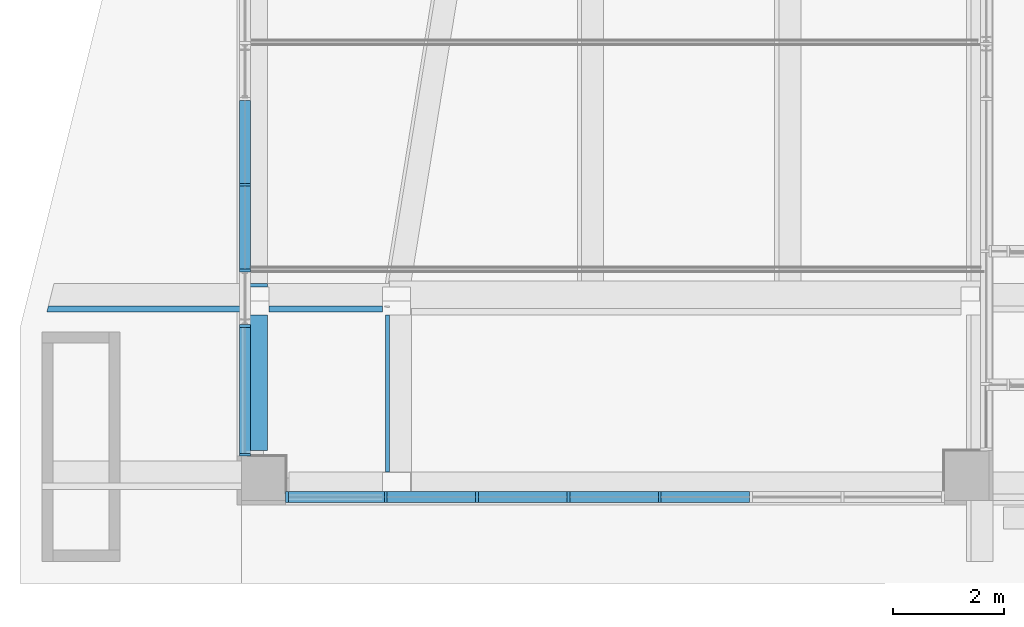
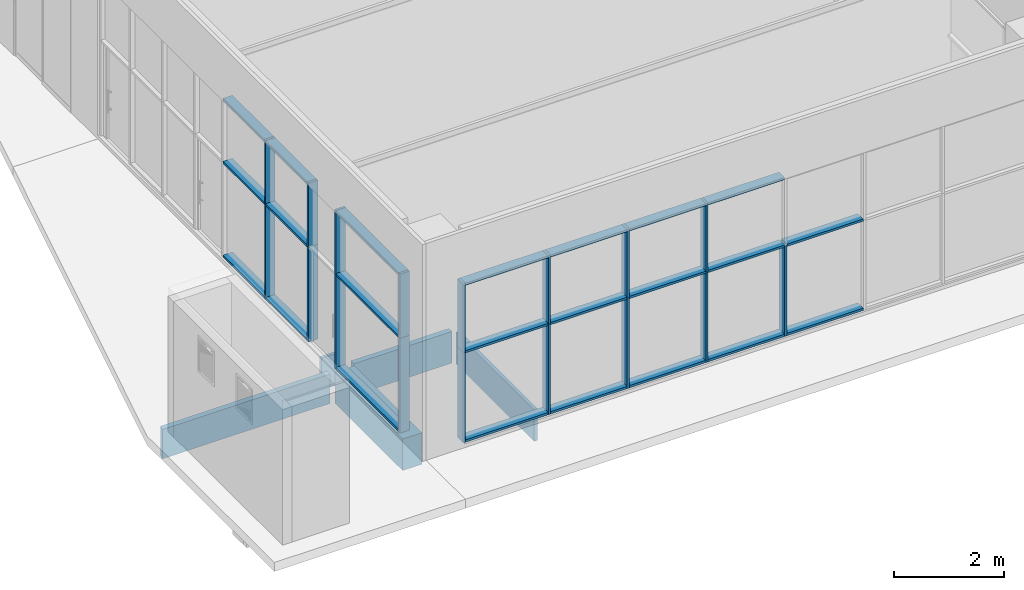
# One storey, part 2 of 100: 40 members, 4 beams, 2 elements without a shape of their own.
"""IFC2X3 building model written with IfcOpenShell, lengths in millimetres."""

from ifc_helpers import new_model, entity, si_unit, converted_unit, derived_unit, direction, frame, frame_2d, origin, origin_2d_with_axis, place, context, subcontext, project, spatial, rectangle, extrude, clip, halfspace, source, transform, mapped, material, type_object, type_shapes, element, aggregate, save


model = new_model("IFC2X3")

# Units and contexts
model_context = context("Model", 3, precision=0.01, world=origin(), true_north=direction((6.123031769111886e-17, 1.0)))
body_context = subcontext(model_context, "Body", "Model", "MODEL_VIEW")
ifc_project = project(units=[si_unit("LENGTHUNIT", "METRE", prefix="MILLI"), si_unit("AREAUNIT", "SQUARE_METRE"), si_unit("VOLUMEUNIT", "CUBIC_METRE"), converted_unit("PLANEANGLEUNIT", "DEGREE", entity("IfcRatioMeasure", 0.017453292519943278), si_unit("PLANEANGLEUNIT", "RADIAN"), dimensions=[0, 0, 0, 0, 0, 0, 0]), si_unit("MASSUNIT", "GRAM", prefix="KILO"), derived_unit("MASSDENSITYUNIT", [(si_unit("MASSUNIT", "GRAM", prefix="KILO"), 1), (si_unit("LENGTHUNIT", "METRE"), -3)]), derived_unit("MOMENTOFINERTIAUNIT", [(si_unit("LENGTHUNIT", "METRE"), 4)]), si_unit("TIMEUNIT", "SECOND"), si_unit("FREQUENCYUNIT", "HERTZ"), si_unit("THERMODYNAMICTEMPERATUREUNIT", "DEGREE_CELSIUS"), derived_unit("THERMALTRANSMITTANCEUNIT", [(si_unit("MASSUNIT", "GRAM", prefix="KILO"), 1), (si_unit("THERMODYNAMICTEMPERATUREUNIT", "KELVIN"), -1), (si_unit("TIMEUNIT", "SECOND"), -3)]), derived_unit("VOLUMETRICFLOWRATEUNIT", [(si_unit("LENGTHUNIT", "METRE"), 3), (si_unit("TIMEUNIT", "SECOND"), -1)]), derived_unit("MASSFLOWRATEUNIT", [(si_unit("MASSUNIT", "GRAM", prefix="KILO"), 1), (si_unit("TIMEUNIT", "SECOND"), -1)]), derived_unit("ROTATIONALFREQUENCYUNIT", [(si_unit("TIMEUNIT", "SECOND"), -1)]), si_unit("ELECTRICCURRENTUNIT", "AMPERE"), si_unit("ELECTRICVOLTAGEUNIT", "VOLT"), si_unit("POWERUNIT", "WATT"), si_unit("FORCEUNIT", "NEWTON", prefix="KILO"), si_unit("ILLUMINANCEUNIT", "LUX"), si_unit("LUMINOUSFLUXUNIT", "LUMEN"), si_unit("LUMINOUSINTENSITYUNIT", "CANDELA"), derived_unit("USERDEFINED", [(si_unit("MASSUNIT", "GRAM", prefix="KILO"), -1), (si_unit("LENGTHUNIT", "METRE"), -2), (si_unit("TIMEUNIT", "SECOND"), 3), (si_unit("LUMINOUSFLUXUNIT", "LUMEN"), 1)]), derived_unit("SOUNDPOWERUNIT", [(si_unit("MASSUNIT", "GRAM", prefix="KILO"), 1), (si_unit("LENGTHUNIT", "METRE"), 2), (si_unit("TIMEUNIT", "SECOND"), -3)]), derived_unit("SOUNDPRESSUREUNIT", [(si_unit("MASSUNIT", "GRAM", prefix="KILO"), 1), (si_unit("LENGTHUNIT", "METRE"), -1), (si_unit("TIMEUNIT", "SECOND"), -2)]), derived_unit("LINEARVELOCITYUNIT", [(si_unit("LENGTHUNIT", "METRE"), 1), (si_unit("TIMEUNIT", "SECOND"), -1)]), si_unit("PRESSUREUNIT", "PASCAL"), derived_unit("USERDEFINED", [(si_unit("LENGTHUNIT", "METRE"), -2), (si_unit("MASSUNIT", "GRAM", prefix="KILO"), 1), (si_unit("TIMEUNIT", "SECOND"), -2)]), derived_unit("LINEARFORCEUNIT", [(si_unit("MASSUNIT", "GRAM", prefix="KILO"), 1), (si_unit("LENGTHUNIT", "METRE"), 1), (si_unit("TIMEUNIT", "SECOND"), -2), (si_unit("LENGTHUNIT", "METRE"), -1)]), derived_unit("PLANARFORCEUNIT", [(si_unit("MASSUNIT", "GRAM", prefix="KILO"), 1), (si_unit("LENGTHUNIT", "METRE"), 1), (si_unit("TIMEUNIT", "SECOND"), -2), (si_unit("LENGTHUNIT", "METRE"), -2)])], contexts=[model_context])

# Site, building, storey
site_placement = place(None, frame((-14167.972527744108, -657.2125860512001, 0.0)))
site = spatial("IfcSite", under=ifc_project, at=site_placement, Name="Default", CompositionType="ELEMENT")
building_placement = place(site_placement, origin())
building = spatial("IfcBuilding", under=site, at=building_placement, Name="Sample Building", CompositionType="ELEMENT")
storey_placement = place(building_placement, origin())
storey = spatial("IfcBuildingStorey", under=building, at=storey_placement, Name="지상 1층", CompositionType="ELEMENT", Elevation=0.0)

# Curtain wall, members
curtain_wall_type = type_object("IfcCurtainWallType", Name="커튼월:CW112-스테인리스 스틸 커튼월", PredefinedType="NOTDEFINED")
curtain_wall_1_placement = place(storey_placement, origin())
curtain_wall_1 = element("IfcCurtainWall", 1, at=curtain_wall_1_placement, inside=storey, type_object=curtain_wall_type, Name="커튼월:CW112-스테인리스 스틸 커튼월", ObjectType="커튼월:CW112-스테인리스 스틸 커튼월")
ifc_material_1 = material(Name="<Unnamed>")
member_type_1 = type_object("IfcMemberType", Name="직사각형 멀리언:CW200-직사각형 멀리언 50x200mm", PredefinedType="MULLION", material=ifc_material_1)
shared_shape_1 = source(origin(), body_context, "Body", "SweptSolid", [
    extrude(rectangle(XDim=200.0, YDim=50.0, at=origin_2d_with_axis()), frame((0.0, 0.0, -2100.0), z_axis=(0.0, 0.0, 1.0), x_axis=(0.0, -1.0, 0.0)), (0.0, 0.0, 1.0), 2100.0),
])
type_shapes(member_type_1, [shared_shape_1])
member_1_placement = place(curtain_wall_1_placement, frame((14129.839654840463, 6257.177624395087, 80.0), z_axis=(0.0, 0.0, -1.0), x_axis=(0.0, -1.0, 0.0)))
member_1 = element("IfcMember", 2, at=member_1_placement, type_object=member_type_1, material=ifc_material_1, Name="직사각형 멀리언:CW200-직사각형 멀리언 50x200mm", ObjectType="직사각형 멀리언:CW200-직사각형 멀리언 50x200mm", context=body_context, shape_type="MappedRepresentation", body=[
    mapped(shared_shape_1, transform((0.0, 0.0, 0.0), scale=1.0)),
])
member_2_placement = place(curtain_wall_1_placement, frame((14129.839654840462, 4707.177624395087, 80.0), z_axis=(0.0, 0.0, -1.0), x_axis=(0.0, -1.0, 0.0)))
member_2 = element("IfcMember", 3, at=member_2_placement, type_object=member_type_1, material=ifc_material_1, Name="직사각형 멀리언:CW200-직사각형 멀리언 50x200mm", ObjectType="직사각형 멀리언:CW200-직사각형 멀리언 50x200mm", context=body_context, shape_type="MappedRepresentation", body=[
    mapped(shared_shape_1, transform((0.0, 0.0, 0.0), scale=1.0)),
])
member_3_placement = place(curtain_wall_1_placement, frame((14129.839654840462, 3707.177624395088, 80.0), z_axis=(0.0, 0.0, -1.0), x_axis=(0.0, -1.0, 0.0)))
member_3 = element("IfcMember", 4, at=member_3_placement, type_object=member_type_1, material=ifc_material_1, Name="직사각형 멀리언:CW200-직사각형 멀리언 50x200mm", ObjectType="직사각형 멀리언:CW200-직사각형 멀리언 50x200mm", context=body_context, shape_type="MappedRepresentation", body=[
    mapped(shared_shape_1, transform((0.0, 0.0, 0.0), scale=1.0)),
])
member_type_2 = type_object("IfcMemberType", Name="직사각형 멀리언:CW200-직사각형 멀리언 50x200mm", PredefinedType="MULLION", material=ifc_material_1)
shared_shape_2 = source(origin(), body_context, "Body", "SweptSolid", [
    extrude(rectangle(XDim=200.0, YDim=50.0, at=origin_2d_with_axis()), frame((-25.0, 0.0, -1420.0), z_axis=(0.0, 0.0, 1.0), x_axis=(0.0, -1.0, 0.0)), (0.0, 0.0, 1.0), 1420.0000000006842),
])
type_shapes(member_type_2, [shared_shape_2])
member_4_placement = place(curtain_wall_1_placement, frame((14129.839654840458, 1357.2118860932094, 2180.0), z_axis=(0.0, 0.0, -1.0), x_axis=(0.0, -1.0, 0.0)))
member_4 = element("IfcMember", 5, at=member_4_placement, type_object=member_type_2, material=ifc_material_1, Name="직사각형 멀리언:CW200-직사각형 멀리언 50x200mm", ObjectType="직사각형 멀리언:CW200-직사각형 멀리언 50x200mm", context=body_context, shape_type="MappedRepresentation", body=[
    mapped(shared_shape_2, transform((0.0, 0.0, 0.0), scale=1.0)),
])
member_type_3 = type_object("IfcMemberType", Name="직사각형 멀리언:CW200-직사각형 멀리언 50x200mm", PredefinedType="MULLION", material=ifc_material_1)
shared_shape_3 = source(origin(), body_context, "Body", "SweptSolid", [
    extrude(rectangle(XDim=200.0, YDim=50.0, at=origin_2d_with_axis()), frame((0.0, 0.0, -1420.0), z_axis=(0.0, 0.0, 1.0), x_axis=(0.0, -1.0, 0.0)), (0.0, 0.0, 1.0), 1420.0000000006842),
])
type_shapes(member_type_3, [shared_shape_3])
member_5_placement = place(curtain_wall_1_placement, frame((14129.839654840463, 6257.177624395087, 2180.0), z_axis=(0.0, 0.0, -1.0), x_axis=(0.0, -1.0, 0.0)))
member_5 = element("IfcMember", 6, at=member_5_placement, type_object=member_type_3, material=ifc_material_1, Name="직사각형 멀리언:CW200-직사각형 멀리언 50x200mm", ObjectType="직사각형 멀리언:CW200-직사각형 멀리언 50x200mm", context=body_context, shape_type="MappedRepresentation", body=[
    mapped(shared_shape_3, transform((0.0, 0.0, 0.0), scale=1.0)),
])
member_6_placement = place(curtain_wall_1_placement, frame((14129.839654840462, 4707.177624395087, 2180.0), z_axis=(0.0, 0.0, -1.0), x_axis=(0.0, -1.0, 0.0)))
member_6 = element("IfcMember", 7, at=member_6_placement, type_object=member_type_3, material=ifc_material_1, Name="직사각형 멀리언:CW200-직사각형 멀리언 50x200mm", ObjectType="직사각형 멀리언:CW200-직사각형 멀리언 50x200mm", context=body_context, shape_type="MappedRepresentation", body=[
    mapped(shared_shape_3, transform((0.0, 0.0, 0.0), scale=1.0)),
])
member_7_placement = place(curtain_wall_1_placement, frame((14129.839654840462, 3707.177624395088, 2180.0), z_axis=(0.0, 0.0, -1.0), x_axis=(0.0, -1.0, 0.0)))
member_7 = element("IfcMember", 8, at=member_7_placement, type_object=member_type_3, material=ifc_material_1, Name="직사각형 멀리언:CW200-직사각형 멀리언 50x200mm", ObjectType="직사각형 멀리언:CW200-직사각형 멀리언 50x200mm", context=body_context, shape_type="MappedRepresentation", body=[
    mapped(shared_shape_3, transform((0.0, 0.0, 0.0), scale=1.0)),
])
member_type_4 = type_object("IfcMemberType", Name="직사각형 멀리언:CW200-직사각형 멀리언 50x200mm", PredefinedType="MULLION", material=ifc_material_1)
shared_shape_4 = source(origin(), body_context, "Body", "SweptSolid", [
    extrude(rectangle(XDim=200.0, YDim=50.0, at=origin_2d_with_axis()), frame((-25.0, 0.0, -2274.9999772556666), z_axis=(0.0, 0.0, 1.0), x_axis=(0.0, -1.0, 0.0)), (0.0, 0.0, 1.0), 2274.999977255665),
])
type_shapes(member_type_4, [shared_shape_4])
member_8_placement = place(curtain_wall_1_placement, frame((14129.839654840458, 1407.2118860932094, 3600.0), z_axis=(0.0, -1.0, 0.0), x_axis=(0.0, 0.0, 1.0)))
member_8 = element("IfcMember", 9, at=member_8_placement, type_object=member_type_4, material=ifc_material_1, Name="직사각형 멀리언:CW200-직사각형 멀리언 50x200mm", ObjectType="직사각형 멀리언:CW200-직사각형 멀리언 50x200mm", context=body_context, shape_type="MappedRepresentation", body=[
    mapped(shared_shape_4, transform((0.0, 0.0, 0.0), scale=1.0)),
])
member_type_5 = type_object("IfcMemberType", Name="직사각형 멀리언:CW200-직사각형 멀리언 50x200mm", PredefinedType="MULLION", material=ifc_material_1)
shared_shape_5 = source(origin(), body_context, "Body", "SweptSolid", [
    extrude(rectangle(XDim=200.0, YDim=50.0, at=origin_2d_with_axis()), frame((-25.0, 0.0, -2100.0), z_axis=(0.0, 0.0, 1.0), x_axis=(0.0, -1.0, 0.0)), (0.0, 0.0, 1.0), 2100.0),
])
type_shapes(member_type_5, [shared_shape_5])
member_9_placement = place(curtain_wall_1_placement, frame((14129.839654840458, 1357.2118860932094, 80.0), z_axis=(0.0, 0.0, -1.0), x_axis=(0.0, -1.0, 0.0)))
member_9 = element("IfcMember", 10, at=member_9_placement, type_object=member_type_5, material=ifc_material_1, Name="직사각형 멀리언:CW200-직사각형 멀리언 50x200mm", ObjectType="직사각형 멀리언:CW200-직사각형 멀리언 50x200mm", context=body_context, shape_type="MappedRepresentation", body=[
    mapped(shared_shape_5, transform((0.0, 0.0, 0.0), scale=1.0)),
])
member_type_6 = type_object("IfcMemberType", Name="직사각형 멀리언:CW200-직사각형 멀리언 50x200mm", PredefinedType="MULLION", material=ifc_material_1)
shared_shape_6 = source(origin(), body_context, "Body", "SweptSolid", [
    extrude(rectangle(XDim=200.0, YDim=50.0, at=origin_2d_with_axis()), frame((-25.0, 0.0, -1500.0), z_axis=(0.0, 0.0, 1.0), x_axis=(0.0, -1.0, 0.0)), (0.0, 0.0, 1.0), 1500.0000000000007),
])
type_shapes(member_type_6, [shared_shape_6])
member_10_placement = place(curtain_wall_1_placement, frame((14129.839654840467, 7782.177624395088, 80.0), z_axis=(0.0, 1.0, 0.0), x_axis=(0.0, 0.0, -1.0)))
member_10 = element("IfcMember", 11, at=member_10_placement, type_object=member_type_6, material=ifc_material_1, Name="직사각형 멀리언:CW200-직사각형 멀리언 50x200mm", ObjectType="직사각형 멀리언:CW200-직사각형 멀리언 50x200mm", context=body_context, shape_type="MappedRepresentation", body=[
    mapped(shared_shape_6, transform((0.0, 0.0, 0.0), scale=1.0)),
])
member_11_placement = place(curtain_wall_1_placement, frame((14129.839654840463, 6232.177624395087, 80.0), z_axis=(0.0, 1.0, 0.0), x_axis=(0.0, 0.0, -1.0)))
member_11 = element("IfcMember", 12, at=member_11_placement, type_object=member_type_6, material=ifc_material_1, Name="직사각형 멀리언:CW200-직사각형 멀리언 50x200mm", ObjectType="직사각형 멀리언:CW200-직사각형 멀리언 50x200mm", context=body_context, shape_type="MappedRepresentation", body=[
    mapped(shared_shape_6, transform((0.0, 0.0, 0.0), scale=1.0)),
])
member_type_7 = type_object("IfcMemberType", Name="직사각형 멀리언:CW200-직사각형 멀리언 50x200mm", PredefinedType="MULLION", material=ifc_material_1)
shared_shape_7 = source(origin(), body_context, "Body", "SweptSolid", [
    extrude(rectangle(XDim=200.0, YDim=50.0, at=origin_2d_with_axis()), frame((-25.0, 0.0, -1500.0), z_axis=(0.0, 0.0, 1.0), x_axis=(0.0, -1.0, 0.0)), (0.0, 0.0, 1.0), 1500.0000000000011),
])
type_shapes(member_type_7, [shared_shape_7])
member_12_placement = place(curtain_wall_1_placement, frame((14129.839654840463, 6282.177624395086, 3600.0), z_axis=(0.0, -1.0, 0.0), x_axis=(0.0, 0.0, 1.0)))
member_12 = element("IfcMember", 13, at=member_12_placement, type_object=member_type_7, material=ifc_material_1, Name="직사각형 멀리언:CW200-직사각형 멀리언 50x200mm", ObjectType="직사각형 멀리언:CW200-직사각형 멀리언 50x200mm", context=body_context, shape_type="MappedRepresentation", body=[
    mapped(shared_shape_7, transform((0.0, 0.0, 0.0), scale=1.0)),
])
member_13_placement = place(curtain_wall_1_placement, frame((14129.839654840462, 4732.177624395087, 3600.0), z_axis=(0.0, -1.0, 0.0), x_axis=(0.0, 0.0, 1.0)))
member_13 = element("IfcMember", 14, at=member_13_placement, type_object=member_type_7, material=ifc_material_1, Name="직사각형 멀리언:CW200-직사각형 멀리언 50x200mm", ObjectType="직사각형 멀리언:CW200-직사각형 멀리언 50x200mm", context=body_context, shape_type="MappedRepresentation", body=[
    mapped(shared_shape_7, transform((0.0, 0.0, 0.0), scale=1.0)),
])
member_type_8 = type_object("IfcMemberType", Name="직사각형 멀리언:CW200-직사각형 멀리언 50x200mm", PredefinedType="MULLION", material=ifc_material_1)
shared_shape_8 = source(origin(), body_context, "Body", "SweptSolid", [
    extrude(rectangle(XDim=200.0, YDim=50.0, at=origin_2d_with_axis()), frame((0.0, 0.0, -1500.0), z_axis=(0.0, 0.0, 1.0), x_axis=(0.0, -1.0, 0.0)), (0.0, 0.0, 1.0), 1500.0000000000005),
])
type_shapes(member_type_8, [shared_shape_8])
member_14_placement = place(curtain_wall_1_placement, frame((14129.839654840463, 6282.177624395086, 2180.0), z_axis=(0.0, -1.0, 0.0), x_axis=(0.0, 0.0, 1.0)))
member_14 = element("IfcMember", 15, at=member_14_placement, type_object=member_type_8, material=ifc_material_1, Name="직사각형 멀리언:CW200-직사각형 멀리언 50x200mm", ObjectType="직사각형 멀리언:CW200-직사각형 멀리언 50x200mm", context=body_context, shape_type="MappedRepresentation", body=[
    mapped(shared_shape_8, transform((0.0, 0.0, 0.0), scale=1.0)),
])
member_15_placement = place(curtain_wall_1_placement, frame((14129.839654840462, 4732.177624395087, 2180.0), z_axis=(0.0, -1.0, 0.0), x_axis=(0.0, 0.0, 1.0)))
member_15 = element("IfcMember", 16, at=member_15_placement, type_object=member_type_8, material=ifc_material_1, Name="직사각형 멀리언:CW200-직사각형 멀리언 50x200mm", ObjectType="직사각형 멀리언:CW200-직사각형 멀리언 50x200mm", context=body_context, shape_type="MappedRepresentation", body=[
    mapped(shared_shape_8, transform((0.0, 0.0, 0.0), scale=1.0)),
])
member_type_9 = type_object("IfcMemberType", Name="직사각형 멀리언:CW200-직사각형 멀리언 50x200mm", PredefinedType="MULLION", material=ifc_material_1)
shared_shape_9 = source(origin(), body_context, "Body", "SweptSolid", [
    extrude(rectangle(XDim=200.0, YDim=50.0, at=origin_2d_with_axis()), frame((-25.0, 0.0, -2274.9999772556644), z_axis=(0.0, 0.0, 1.0), x_axis=(0.0, -1.0, 0.0)), (0.0, 0.0, 1.0), 2274.9999772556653),
])
type_shapes(member_type_9, [shared_shape_9])
member_16_placement = place(curtain_wall_1_placement, frame((14129.839654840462, 3682.1776243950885, 80.0), z_axis=(0.0, 1.0, 0.0), x_axis=(0.0, 0.0, -1.0)))
member_16 = element("IfcMember", 17, at=member_16_placement, type_object=member_type_9, material=ifc_material_1, Name="직사각형 멀리언:CW200-직사각형 멀리언 50x200mm", ObjectType="직사각형 멀리언:CW200-직사각형 멀리언 50x200mm", context=body_context, shape_type="MappedRepresentation", body=[
    mapped(shared_shape_9, transform((0.0, 0.0, 0.0), scale=1.0)),
])
member_type_10 = type_object("IfcMemberType", Name="직사각형 멀리언:CW200-직사각형 멀리언 50x200mm", PredefinedType="MULLION", material=ifc_material_1)
shared_shape_10 = source(origin(), body_context, "Body", "SweptSolid", [
    extrude(rectangle(XDim=200.0, YDim=50.0, at=origin_2d_with_axis()), frame((0.0, 0.0, -2274.999977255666), z_axis=(0.0, 0.0, 1.0), x_axis=(0.0, -1.0, 0.0)), (0.0, 0.0, 1.0), 2274.9999772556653),
])
type_shapes(member_type_10, [shared_shape_10])
member_17_placement = place(curtain_wall_1_placement, frame((14129.839654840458, 1407.2118860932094, 2180.0), z_axis=(0.0, -1.0, 0.0), x_axis=(0.0, 0.0, 1.0)))
member_17 = element("IfcMember", 18, at=member_17_placement, type_object=member_type_10, material=ifc_material_1, Name="직사각형 멀리언:CW200-직사각형 멀리언 50x200mm", ObjectType="직사각형 멀리언:CW200-직사각형 멀리언 50x200mm", context=body_context, shape_type="MappedRepresentation", body=[
    mapped(shared_shape_10, transform((0.0, 0.0, 0.0), scale=1.0)),
])
aggregate(curtain_wall_1, [member_8, member_9, member_10, member_12, member_11, member_1, member_4, member_14, member_15, member_5, member_13, member_2, member_6, member_16, member_17, member_3, member_7])

curtain_wall_2_placement = place(storey_placement, origin())
curtain_wall_2 = element("IfcCurtainWall", 19, at=curtain_wall_2_placement, inside=storey, type_object=curtain_wall_type, Name="커튼월:CW112-스테인리스 스틸 커튼월", ObjectType="커튼월:CW112-스테인리스 스틸 커튼월")
member_type_11 = type_object("IfcMemberType", Name="직사각형 멀리언:CW200-직사각형 멀리언 50x200mm", PredefinedType="MULLION", material=ifc_material_1)
shared_shape_11 = source(origin(), body_context, "Body", "SweptSolid", [
    extrude(rectangle(XDim=200.0, YDim=50.0, at=origin_2d_with_axis()), frame((-25.0, 0.0, -1730.7929085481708), z_axis=(0.0, 0.0, 1.0), x_axis=(0.0, -1.0, 0.0)), (0.0, 0.0, 1.0), 1730.7929085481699),
])
type_shapes(member_type_11, [shared_shape_11])
member_18_placement = place(curtain_wall_2_placement, frame((14917.972454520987, 619.7122951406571, 80.0), z_axis=(-1.0, 0.0, 0.0), x_axis=(0.0, 0.0, -1.0)))
member_18 = element("IfcMember", 20, at=member_18_placement, type_object=member_type_11, material=ifc_material_1, Name="직사각형 멀리언:CW200-직사각형 멀리언 50x200mm", ObjectType="직사각형 멀리언:CW200-직사각형 멀리언 50x200mm", context=body_context, shape_type="MappedRepresentation", body=[
    mapped(shared_shape_11, transform((0.0, 0.0, 0.0), scale=1.0)),
])
member_type_12 = type_object("IfcMemberType", Name="직사각형 멀리언:CW200-직사각형 멀리언 50x200mm", PredefinedType="MULLION", material=ifc_material_1)
shared_shape_12 = source(origin(), body_context, "Body", "SweptSolid", [
    extrude(rectangle(XDim=200.0, YDim=50.0, at=origin_2d_with_axis()), frame((-25.0, 0.0, -1520.0), z_axis=(0.0, 0.0, 1.0), x_axis=(0.0, -1.0, 0.0)), (0.0, 0.0, 1.0), 1520.0000000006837),
])
type_shapes(member_type_12, [shared_shape_12])
member_19_placement = place(curtain_wall_2_placement, frame((14867.972454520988, 619.7122951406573, 3600.0), z_axis=(0.0, 0.0, 1.0), x_axis=(-1.0, 0.0, 0.0)))
member_19 = element("IfcMember", 21, at=member_19_placement, type_object=member_type_12, material=ifc_material_1, Name="직사각형 멀리언:CW200-직사각형 멀리언 50x200mm", ObjectType="직사각형 멀리언:CW200-직사각형 멀리언 50x200mm", context=body_context, shape_type="MappedRepresentation", body=[
    mapped(shared_shape_12, transform((0.0, 0.0, 0.0), scale=1.0)),
])
member_type_13 = type_object("IfcMemberType", Name="직사각형 멀리언:CW200-직사각형 멀리언 50x200mm", PredefinedType="MULLION", material=ifc_material_1)
shared_shape_13 = source(origin(), body_context, "Body", "SweptSolid", [
    extrude(rectangle(XDim=200.0, YDim=50.0, at=origin_2d_with_axis()), frame((-25.0, 0.0, -1600.0), z_axis=(0.0, 0.0, 1.0), x_axis=(0.0, -1.0, 0.0)), (0.0, 0.0, 1.0), 1599.9999999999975),
])
type_shapes(member_type_13, [shared_shape_13])
member_20_placement = place(curtain_wall_2_placement, frame((18298.765363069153, 619.7122951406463, 3600.0), z_axis=(1.0, 0.0, 0.0), x_axis=(0.0, 0.0, 1.0)))
member_20 = element("IfcMember", 22, at=member_20_placement, type_object=member_type_13, material=ifc_material_1, Name="직사각형 멀리언:CW200-직사각형 멀리언 50x200mm", ObjectType="직사각형 멀리언:CW200-직사각형 멀리언 50x200mm", context=body_context, shape_type="MappedRepresentation", body=[
    mapped(shared_shape_13, transform((0.0, 0.0, 0.0), scale=1.0)),
])
member_21_placement = place(curtain_wall_2_placement, frame((19948.765363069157, 619.7122951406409, 3600.0), z_axis=(1.0, 0.0, 0.0), x_axis=(0.0, 0.0, 1.0)))
member_21 = element("IfcMember", 23, at=member_21_placement, type_object=member_type_13, material=ifc_material_1, Name="직사각형 멀리언:CW200-직사각형 멀리언 50x200mm", ObjectType="직사각형 멀리언:CW200-직사각형 멀리언 50x200mm", context=body_context, shape_type="MappedRepresentation", body=[
    mapped(shared_shape_13, transform((0.0, 0.0, 0.0), scale=1.0)),
])
member_22_placement = place(curtain_wall_2_placement, frame((21598.765363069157, 619.7122951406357, 3600.0), z_axis=(1.0, 0.0, 0.0), x_axis=(0.0, 0.0, 1.0)))
member_22 = element("IfcMember", 24, at=member_22_placement, type_object=member_type_13, material=ifc_material_1, Name="직사각형 멀리언:CW200-직사각형 멀리언 50x200mm", ObjectType="직사각형 멀리언:CW200-직사각형 멀리언 50x200mm", context=body_context, shape_type="MappedRepresentation", body=[
    mapped(shared_shape_13, transform((0.0, 0.0, 0.0), scale=1.0)),
])
member_type_14 = type_object("IfcMemberType", Name="직사각형 멀리언:CW200-직사각형 멀리언 50x200mm", PredefinedType="MULLION", material=ifc_material_1)
shared_shape_14 = source(origin(), body_context, "Body", "SweptSolid", [
    extrude(rectangle(XDim=200.0, YDim=50.0, at=origin_2d_with_axis()), frame((-25.0, 0.0, -1600.0), z_axis=(0.0, 0.0, 1.0), x_axis=(0.0, -1.0, 0.0)), (0.0, 0.0, 1.0), 1600.0000000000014),
])
type_shapes(member_type_14, [shared_shape_14])
member_23_placement = place(curtain_wall_2_placement, frame((18348.765363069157, 619.7122951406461, 80.0), z_axis=(-1.0, 0.0, 0.0), x_axis=(0.0, 0.0, -1.0)))
member_23 = element("IfcMember", 25, at=member_23_placement, type_object=member_type_14, material=ifc_material_1, Name="직사각형 멀리언:CW200-직사각형 멀리언 50x200mm", ObjectType="직사각형 멀리언:CW200-직사각형 멀리언 50x200mm", context=body_context, shape_type="MappedRepresentation", body=[
    mapped(shared_shape_14, transform((0.0, 0.0, 0.0), scale=1.0)),
])
member_24_placement = place(curtain_wall_2_placement, frame((16698.765363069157, 619.7122951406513, 80.0), z_axis=(-1.0, 0.0, 0.0), x_axis=(0.0, 0.0, -1.0)))
member_24 = element("IfcMember", 26, at=member_24_placement, type_object=member_type_14, material=ifc_material_1, Name="직사각형 멀리언:CW200-직사각형 멀리언 50x200mm", ObjectType="직사각형 멀리언:CW200-직사각형 멀리언 50x200mm", context=body_context, shape_type="MappedRepresentation", body=[
    mapped(shared_shape_14, transform((0.0, 0.0, 0.0), scale=1.0)),
])
member_25_placement = place(curtain_wall_2_placement, frame((19998.765363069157, 619.7122951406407, 80.0), z_axis=(-1.0, 0.0, 0.0), x_axis=(0.0, 0.0, -1.0)))
member_25 = element("IfcMember", 27, at=member_25_placement, type_object=member_type_14, material=ifc_material_1, Name="직사각형 멀리언:CW200-직사각형 멀리언 50x200mm", ObjectType="직사각형 멀리언:CW200-직사각형 멀리언 50x200mm", context=body_context, shape_type="MappedRepresentation", body=[
    mapped(shared_shape_14, transform((0.0, 0.0, 0.0), scale=1.0)),
])
member_26_placement = place(curtain_wall_2_placement, frame((21648.765363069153, 619.7122951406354, 80.0), z_axis=(-1.0, 0.0, 0.0), x_axis=(0.0, 0.0, -1.0)))
member_26 = element("IfcMember", 28, at=member_26_placement, type_object=member_type_14, material=ifc_material_1, Name="직사각형 멀리언:CW200-직사각형 멀리언 50x200mm", ObjectType="직사각형 멀리언:CW200-직사각형 멀리언 50x200mm", context=body_context, shape_type="MappedRepresentation", body=[
    mapped(shared_shape_14, transform((0.0, 0.0, 0.0), scale=1.0)),
])
member_type_15 = type_object("IfcMemberType", Name="직사각형 멀리언:CW200-직사각형 멀리언 50x200mm", PredefinedType="MULLION", material=ifc_material_1)
shared_shape_15 = source(origin(), body_context, "Body", "SweptSolid", [
    extrude(rectangle(XDim=200.0, YDim=50.0, at=origin_2d_with_axis()), frame((0.0, 0.0, -2000.0), z_axis=(0.0, 0.0, 1.0), x_axis=(0.0, -1.0, 0.0)), (0.0, 0.0, 1.0), 2000.0000000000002),
])
type_shapes(member_type_15, [shared_shape_15])
member_27_placement = place(curtain_wall_2_placement, frame((18323.765363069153, 619.7122951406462, 80.0), z_axis=(0.0, 0.0, -1.0), x_axis=(1.0, 0.0, 0.0)))
member_27 = element("IfcMember", 29, at=member_27_placement, type_object=member_type_15, material=ifc_material_1, Name="직사각형 멀리언:CW200-직사각형 멀리언 50x200mm", ObjectType="직사각형 멀리언:CW200-직사각형 멀리언 50x200mm", context=body_context, shape_type="MappedRepresentation", body=[
    mapped(shared_shape_15, transform((0.0, 0.0, 0.0), scale=1.0)),
])
member_28_placement = place(curtain_wall_2_placement, frame((16673.765363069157, 619.7122951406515, 80.0), z_axis=(0.0, 0.0, -1.0), x_axis=(1.0, 0.0, 0.0)))
member_28 = element("IfcMember", 30, at=member_28_placement, type_object=member_type_15, material=ifc_material_1, Name="직사각형 멀리언:CW200-직사각형 멀리언 50x200mm", ObjectType="직사각형 멀리언:CW200-직사각형 멀리언 50x200mm", context=body_context, shape_type="MappedRepresentation", body=[
    mapped(shared_shape_15, transform((0.0, 0.0, 0.0), scale=1.0)),
])
member_29_placement = place(curtain_wall_2_placement, frame((19973.765363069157, 619.7122951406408, 80.0), z_axis=(0.0, 0.0, -1.0), x_axis=(1.0, 0.0, 0.0)))
member_29 = element("IfcMember", 31, at=member_29_placement, type_object=member_type_15, material=ifc_material_1, Name="직사각형 멀리언:CW200-직사각형 멀리언 50x200mm", ObjectType="직사각형 멀리언:CW200-직사각형 멀리언 50x200mm", context=body_context, shape_type="MappedRepresentation", body=[
    mapped(shared_shape_15, transform((0.0, 0.0, 0.0), scale=1.0)),
])
member_30_placement = place(curtain_wall_2_placement, frame((21623.765363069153, 619.7122951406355, 80.0), z_axis=(0.0, 0.0, -1.0), x_axis=(1.0, 0.0, 0.0)))
member_30 = element("IfcMember", 32, at=member_30_placement, type_object=member_type_15, material=ifc_material_1, Name="직사각형 멀리언:CW200-직사각형 멀리언 50x200mm", ObjectType="직사각형 멀리언:CW200-직사각형 멀리언 50x200mm", context=body_context, shape_type="MappedRepresentation", body=[
    mapped(shared_shape_15, transform((0.0, 0.0, 0.0), scale=1.0)),
])
member_type_16 = type_object("IfcMemberType", Name="직사각형 멀리언:CW200-직사각형 멀리언 50x200mm", PredefinedType="MULLION", material=ifc_material_1)
shared_shape_16 = source(origin(), body_context, "Body", "SweptSolid", [
    extrude(rectangle(XDim=200.0, YDim=50.0, at=origin_2d_with_axis()), frame((-25.0, 0.0, -2000.0), z_axis=(0.0, 0.0, 1.0), x_axis=(0.0, -1.0, 0.0)), (0.0, 0.0, 1.0), 1999.9999999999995),
])
type_shapes(member_type_16, [shared_shape_16])
member_31_placement = place(curtain_wall_2_placement, frame((14867.972454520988, 619.7122951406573, 2080.0), z_axis=(0.0, 0.0, 1.0), x_axis=(-1.0, 0.0, 0.0)))
member_31 = element("IfcMember", 33, at=member_31_placement, type_object=member_type_16, material=ifc_material_1, Name="직사각형 멀리언:CW200-직사각형 멀리언 50x200mm", ObjectType="직사각형 멀리언:CW200-직사각형 멀리언 50x200mm", context=body_context, shape_type="MappedRepresentation", body=[
    mapped(shared_shape_16, transform((0.0, 0.0, 0.0), scale=1.0)),
])
member_type_17 = type_object("IfcMemberType", Name="직사각형 멀리언:CW200-직사각형 멀리언 50x200mm", PredefinedType="MULLION", material=ifc_material_1)
shared_shape_17 = source(origin(), body_context, "Body", "SweptSolid", [
    extrude(rectangle(XDim=200.0, YDim=50.0, at=origin_2d_with_axis()), frame((0.0, 0.0, -1730.792908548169), z_axis=(0.0, 0.0, 1.0), x_axis=(0.0, -1.0, 0.0)), (0.0, 0.0, 1.0), 1730.79290854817),
])
type_shapes(member_type_17, [shared_shape_17])
member_32_placement = place(curtain_wall_2_placement, frame((16648.765363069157, 619.7122951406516, 2080.0), z_axis=(1.0, 0.0, 0.0), x_axis=(0.0, 0.0, 1.0)))
member_32 = element("IfcMember", 34, at=member_32_placement, type_object=member_type_17, material=ifc_material_1, Name="직사각형 멀리언:CW200-직사각형 멀리언 50x200mm", ObjectType="직사각형 멀리언:CW200-직사각형 멀리언 50x200mm", context=body_context, shape_type="MappedRepresentation", body=[
    mapped(shared_shape_17, transform((0.0, 0.0, 0.0), scale=1.0)),
])
member_type_18 = type_object("IfcMemberType", Name="직사각형 멀리언:CW200-직사각형 멀리언 50x200mm", PredefinedType="MULLION", material=ifc_material_1)
shared_shape_18 = source(origin(), body_context, "Body", "SweptSolid", [
    extrude(rectangle(XDim=200.0, YDim=50.0, at=origin_2d_with_axis()), frame((0.0, 0.0, -1600.0), z_axis=(0.0, 0.0, 1.0), x_axis=(0.0, -1.0, 0.0)), (0.0, 0.0, 1.0), 1600.0000000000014),
])
type_shapes(member_type_18, [shared_shape_18])
member_33_placement = place(curtain_wall_2_placement, frame((19948.765363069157, 619.7122951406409, 2080.0), z_axis=(1.0, 0.0, 0.0), x_axis=(0.0, 0.0, 1.0)))
member_33 = element("IfcMember", 35, at=member_33_placement, type_object=member_type_18, material=ifc_material_1, Name="직사각형 멀리언:CW200-직사각형 멀리언 50x200mm", ObjectType="직사각형 멀리언:CW200-직사각형 멀리언 50x200mm", context=body_context, shape_type="MappedRepresentation", body=[
    mapped(shared_shape_18, transform((0.0, 0.0, 0.0), scale=1.0)),
])
member_34_placement = place(curtain_wall_2_placement, frame((18298.765363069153, 619.7122951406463, 2080.0), z_axis=(1.0, 0.0, 0.0), x_axis=(0.0, 0.0, 1.0)))
member_34 = element("IfcMember", 36, at=member_34_placement, type_object=member_type_18, material=ifc_material_1, Name="직사각형 멀리언:CW200-직사각형 멀리언 50x200mm", ObjectType="직사각형 멀리언:CW200-직사각형 멀리언 50x200mm", context=body_context, shape_type="MappedRepresentation", body=[
    mapped(shared_shape_18, transform((0.0, 0.0, 0.0), scale=1.0)),
])
member_35_placement = place(curtain_wall_2_placement, frame((21598.765363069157, 619.7122951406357, 2080.0), z_axis=(1.0, 0.0, 0.0), x_axis=(0.0, 0.0, 1.0)))
member_35 = element("IfcMember", 37, at=member_35_placement, type_object=member_type_18, material=ifc_material_1, Name="직사각형 멀리언:CW200-직사각형 멀리언 50x200mm", ObjectType="직사각형 멀리언:CW200-직사각형 멀리언 50x200mm", context=body_context, shape_type="MappedRepresentation", body=[
    mapped(shared_shape_18, transform((0.0, 0.0, 0.0), scale=1.0)),
])
member_36_placement = place(curtain_wall_2_placement, frame((23248.765363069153, 619.7122951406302, 2080.0), z_axis=(1.0, 0.0, 0.0), x_axis=(0.0, 0.0, 1.0)))
member_36 = element("IfcMember", 38, at=member_36_placement, type_object=member_type_18, material=ifc_material_1, Name="직사각형 멀리언:CW200-직사각형 멀리언 50x200mm", ObjectType="직사각형 멀리언:CW200-직사각형 멀리언 50x200mm", context=body_context, shape_type="MappedRepresentation", body=[
    mapped(shared_shape_18, transform((0.0, 0.0, 0.0), scale=1.0)),
])
member_type_19 = type_object("IfcMemberType", Name="직사각형 멀리언:CW200-직사각형 멀리언 50x200mm", PredefinedType="MULLION", material=ifc_material_1)
shared_shape_19 = source(origin(), body_context, "Body", "SweptSolid", [
    extrude(rectangle(XDim=200.0, YDim=50.0, at=origin_2d_with_axis()), frame((0.0, 0.0, -1520.0), z_axis=(0.0, 0.0, 1.0), x_axis=(0.0, -1.0, 0.0)), (0.0, 0.0, 1.0), 1520.0000000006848),
])
type_shapes(member_type_19, [shared_shape_19])
member_37_placement = place(curtain_wall_2_placement, frame((18323.765363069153, 619.7122951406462, 2080.0), z_axis=(0.0, 0.0, -1.0), x_axis=(1.0, 0.0, 0.0)))
member_37 = element("IfcMember", 39, at=member_37_placement, type_object=member_type_19, material=ifc_material_1, Name="직사각형 멀리언:CW200-직사각형 멀리언 50x200mm", ObjectType="직사각형 멀리언:CW200-직사각형 멀리언 50x200mm", context=body_context, shape_type="MappedRepresentation", body=[
    mapped(shared_shape_19, transform((0.0, 0.0, 0.0), scale=1.0)),
])
member_38_placement = place(curtain_wall_2_placement, frame((16673.765363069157, 619.7122951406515, 2080.0), z_axis=(0.0, 0.0, -1.0), x_axis=(1.0, 0.0, 0.0)))
member_38 = element("IfcMember", 40, at=member_38_placement, type_object=member_type_19, material=ifc_material_1, Name="직사각형 멀리언:CW200-직사각형 멀리언 50x200mm", ObjectType="직사각형 멀리언:CW200-직사각형 멀리언 50x200mm", context=body_context, shape_type="MappedRepresentation", body=[
    mapped(shared_shape_19, transform((0.0, 0.0, 0.0), scale=1.0)),
])
member_39_placement = place(curtain_wall_2_placement, frame((19973.765363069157, 619.7122951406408, 2080.0), z_axis=(0.0, 0.0, -1.0), x_axis=(1.0, 0.0, 0.0)))
member_39 = element("IfcMember", 41, at=member_39_placement, type_object=member_type_19, material=ifc_material_1, Name="직사각형 멀리언:CW200-직사각형 멀리언 50x200mm", ObjectType="직사각형 멀리언:CW200-직사각형 멀리언 50x200mm", context=body_context, shape_type="MappedRepresentation", body=[
    mapped(shared_shape_19, transform((0.0, 0.0, 0.0), scale=1.0)),
])
member_type_20 = type_object("IfcMemberType", Name="직사각형 멀리언:CW200-직사각형 멀리언 50x200mm", PredefinedType="MULLION", material=ifc_material_1)
shared_shape_20 = source(origin(), body_context, "Body", "SweptSolid", [
    extrude(rectangle(XDim=200.0, YDim=50.0, at=origin_2d_with_axis()), frame((-25.0, 0.0, -1730.792908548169), z_axis=(0.0, 0.0, 1.0), x_axis=(0.0, -1.0, 0.0)), (0.0, 0.0, 1.0), 1730.79290854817),
])
type_shapes(member_type_20, [shared_shape_20])
member_40_placement = place(curtain_wall_2_placement, frame((16648.765363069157, 619.7122951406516, 3600.0), z_axis=(1.0, 0.0, 0.0), x_axis=(0.0, 0.0, 1.0)))
member_40 = element("IfcMember", 42, at=member_40_placement, type_object=member_type_20, material=ifc_material_1, Name="직사각형 멀리언:CW200-직사각형 멀리언 50x200mm", ObjectType="직사각형 멀리언:CW200-직사각형 멀리언 50x200mm", context=body_context, shape_type="MappedRepresentation", body=[
    mapped(shared_shape_20, transform((0.0, 0.0, 0.0), scale=1.0)),
])
aggregate(curtain_wall_2, [member_18, member_19, member_20, member_23, member_27, member_31, member_32, member_33, member_37, member_40, member_24, member_34, member_28, member_38, member_21, member_25, member_35, member_29, member_39, member_22, member_26, member_36, member_30])

# Beams
ifc_material_2 = material(Name="KBIMS-콘크리트")
beam_type_1 = type_object("IfcBeamType", Name="BM111-철근콘크리트구조 보:BM110-철근 콘크리트구조 보_400 x 850_B1-1G3", PredefinedType="NOTDEFINED")
beam_1_placement = place(storey_placement, frame((14417.963038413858, 4157.212692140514, 0.0)))
element("IfcBeam", 43, at=beam_1_placement, inside=storey, type_object=beam_type_1, material=ifc_material_2, Name="BM111-철근콘크리트구조 보:BM110-철근 콘크리트구조 보_400 x 850_B1-1G3", ObjectType="BM111-철근콘크리트구조 보:BM110-철근 콘크리트구조 보_400 x 850_B1-1G3", context=body_context, shape_type="SweptSolid", body=[
    extrude(rectangle(XDim=700.0000000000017, YDim=113.86449812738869, at=frame_2d((5.684341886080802e-14, 2.7000623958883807e-13), x_axis=(1.0, 0.0))), frame((149.99206675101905, -143.06775093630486, -500.0), z_axis=(1.0, 0.0, 0.0), x_axis=(0.0, 0.0, -1.0)), (0.0, 0.0, 1.0), 2049.991343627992),
])
beam_2_placement = place(storey_placement, frame((16867.946448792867, 757.2126041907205, 0.0), z_axis=(0.0, 0.0, 1.0), x_axis=(0.0, 1.0, 0.0)))
element("IfcBeam", 44, at=beam_2_placement, inside=storey, type_object=beam_type_1, material=ifc_material_2, Name="BM111-철근콘크리트구조 보:BM110-철근 콘크리트구조 보_400 x 850_B1-1G3", ObjectType="BM111-철근콘크리트구조 보:BM110-철근 콘크리트구조 보_400 x 850_B1-1G3", context=body_context, shape_type="SweptSolid", body=[
    extrude(rectangle(XDim=700.0000000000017, YDim=75.29945030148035, at=frame_2d((0.0, -1.0800249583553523e-12), x_axis=(1.0, 0.0))), frame((313.8644981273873, 162.3502748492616, -500.0), z_axis=(1.0, 0.0, 0.0), x_axis=(0.0, 0.0, -1.0)), (0.0, 0.0, 1.0), 2836.1355898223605),
])
beam_3_placement = place(storey_placement, frame((14217.955105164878, 4157.212692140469, 0.0), z_axis=(0.0, 0.0, 1.0), x_axis=(-1.0, 0.0, 0.0)))
element("IfcBeam", 45, at=beam_3_placement, inside=storey, type_object=beam_type_1, material=ifc_material_2, Name="BM111-철근콘크리트구조 보:BM110-철근 콘크리트구조 보_400 x 850_B1-1G3", ObjectType="BM111-철근콘크리트구조 보:BM110-철근 콘크리트구조 보_400 x 850_B1-1G3", context=body_context, shape_type="SweptSolid", body=[
    clip(extrude(rectangle(XDim=650.0000000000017, YDim=113.86449812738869, at=frame_2d((0.0, -2.7000623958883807e-13), x_axis=(1.0, 0.0))), frame((150.0, 143.06775093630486, -525.0), z_axis=(1.0, 0.0, 0.0), x_axis=(0.0, 0.0, -1.0)), (0.0, 0.0, 1.0), 3515.7495960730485), halfspace(frame((3652.7618197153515, 148.04889456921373, -6100.0), z_axis=(0.9701425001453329, -0.24253562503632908, 0.0), x_axis=(-0.24253562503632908, -0.9701425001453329, 0.0)), False)),
])
beam_type_2 = type_object("IfcBeamType", Name="BM111-철근콘크리트구조 보:BM110-철근 콘크리트구조 보_400 x 850_B1-1G3", PredefinedType="BEAM", material=ifc_material_2)
shared_shape_21 = source(origin(), body_context, "Body", "SweptSolid", [
    extrude(rectangle(XDim=700.0000000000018, YDim=400.0000000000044, at=frame_2d((-1.0942358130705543e-12, -5.684341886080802e-14), x_axis=(0.0, 1.0))), frame((14343.237206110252, 1458.3766932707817, -500.0), z_axis=(0.0, 1.0, 0.0), x_axis=(-1.0, 0.0, 0.0)), (0.0, 0.0, 1.0), 2448.835998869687),
    extrude(rectangle(XDim=700.0000000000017, YDim=400.00000000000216, at=frame_2d((-1.0942358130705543e-12, 0.0), x_axis=(0.0, 1.0))), frame((14343.237206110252, 4407.212692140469, -500.0), z_axis=(0.0, 1.0, 0.0), x_axis=(-1.0, 0.0, 0.0)), (0.0, 0.0, 1.0), 63.864498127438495),
])
type_shapes(beam_type_2, [shared_shape_21])
beam_4_placement = place(storey_placement, origin())
element("IfcBeam", 46, at=beam_4_placement, inside=storey, type_object=beam_type_2, material=ifc_material_2, Name="BM111-철근콘크리트구조 보:BM110-철근 콘크리트구조 보_400 x 850_B1-1G3", ObjectType="BM111-철근콘크리트구조 보:BM110-철근 콘크리트구조 보_400 x 850_B1-1G3", context=body_context, shape_type="MappedRepresentation", body=[
    mapped(shared_shape_21, transform((0.0, 0.0, 0.0), scale=1.0)),
])

save(model, "model.ifc")
